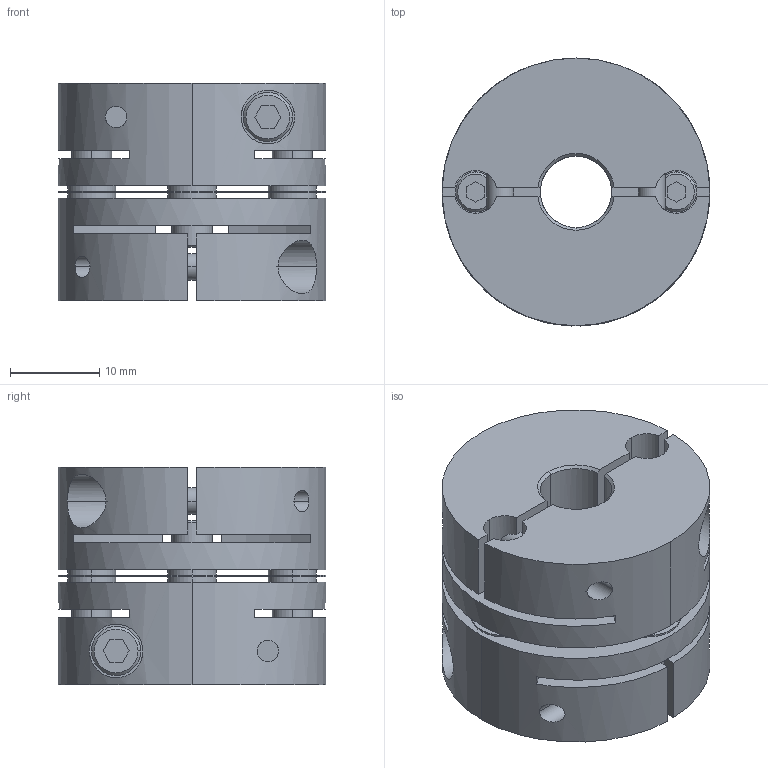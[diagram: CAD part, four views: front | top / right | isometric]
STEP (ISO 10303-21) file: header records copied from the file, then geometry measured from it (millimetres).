
FILE_DESCRIPTION((''),'2;1');
FILE_NAME('LAS-30C-8×9.525.stp','2015-10-14T15:18:14',(''),(''),'AutoCAD STEP 2000i','AutoCAD 2000i',', , ');
FILE_SCHEMA(('CONFIG_CONTROL_DESIGN'));
Length unit declared in the file: millimetre
Products named in the file (5): LAS-30C-6×6; 忣兜1; LA-3002-D06-1; LA-3002-D06; LAS30-ITA
Assembly tree (4 placements, depth 2):
  LAS-30C-6×6
    忣兜1
    LA-3002-D06-1
    LA-3002-D06
    LAS30-ITA
Bounding box: 30 x 30 x 24.4 mm (x, y, z)
Volume: 13092.3 mm3; surface area: 9155 mm2
Topology: 1 solids, 1 shells, 236 faces, 624 edges, 408 vertices
Faces by surface type: plane 112, cylinder 96, cone 28
Entity records: 8139 total; most frequent: CARTESIAN_POINT 1945, DIRECTION 1302, ORIENTED_EDGE 1248, EDGE_CURVE 624, AXIS2_PLACEMENT_3D 477, VERTEX_POINT 408, VECTOR 348, LINE 348
